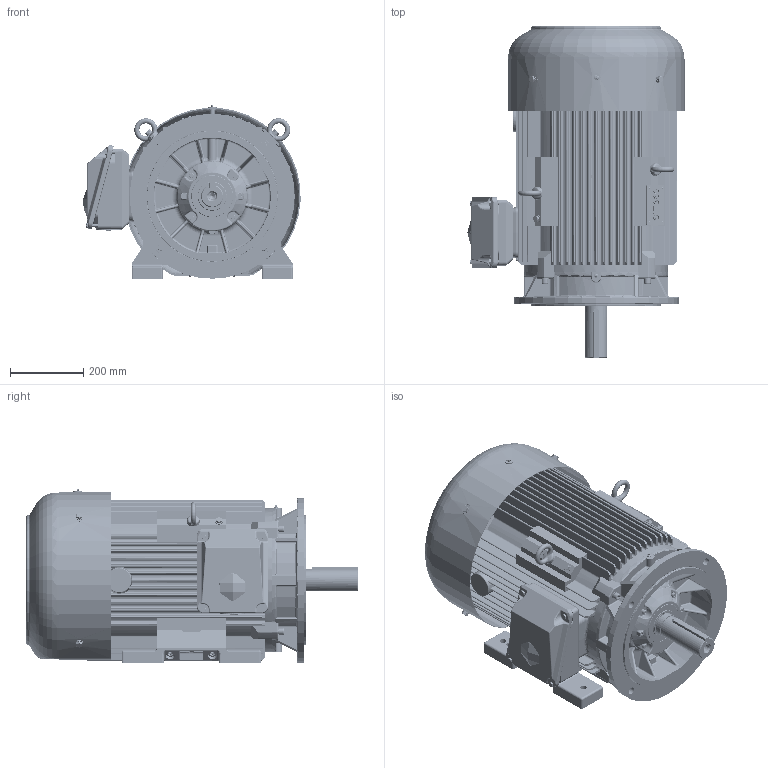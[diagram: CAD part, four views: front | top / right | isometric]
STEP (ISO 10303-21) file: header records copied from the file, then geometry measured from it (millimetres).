
FILE_DESCRIPTION(/* description */ ('Unknown','CAx-IF Rec.Pracs.---Representation and Presentation of Product Manufacturing Information (PMI)---4.0---2014-10-13','CAx-IF Rec.Pracs.---3D Tessellated Geometry---0.4---2014-09-14','2;1'),/* implementation_level */ '2;1');
FILE_NAME(/* name */ 'Silnik NEMA SIE360TDL4_6 - do klienta',/* time_stamp */ '2024-07-08T08:37:26+02:00',/* author */ ('Unknown'),/* organization */ ('Unknown'),/* preprocessor_version */ 'ST-DEVELOPER v16.7',/* originating_system */ 'DEX',/* authorisation */ $);
FILE_SCHEMA (('AP242_MANAGED_MODEL_BASED_3D_ENGINEERING_MIM_LF { 1 0 10303 442 20130219 1 4 }'));
Products named in the file (1): Silnik NEMA SIE360TDL4_6 - do klienta
Bounding box: 592.5 x 904.9 x 473 mm (x, y, z)
Volume: 43993749.2 mm3; surface area: 6053758.2 mm2
Topology: 1 solids, 38 shells, 9411 faces, 25263 edges, 15768 vertices
Faces by surface type: plane 5301, cylinder 1943, bspline 890, torus 692, cone 319, sphere 266
Full cylindrical faces by diameter (mm): 1.6 x2, 2.5 x2, 3 x10, 3.5 x4, 4.134 x2, 4.917 x3, 5 x4, 6 x5, 6.3 x1, 6.4 x2, 6.466 x8, 6.647 x12, 8 x26, 8.36 x2, 8.376 x8, 8.5 x1, 8.917 x2, 9 x12, 9.853 x4, 10 x22, 10.106 x9, 10.5 x5, 11.63 x1, 12 x12, 13 x10, 13.546 x4, 13.835 x8, 14 x6, 14.63 x1, 16 x8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
Entity records: 394997 total; most frequent: CARTESIAN_POINT 100460, ORIENTED_EDGE 48122, DIRECTION 44913, EDGE_CURVE 24061, VERTEX_POINT 15396, LINE 15135, VECTOR 15135, AXIS2_PLACEMENT_3D 14889
